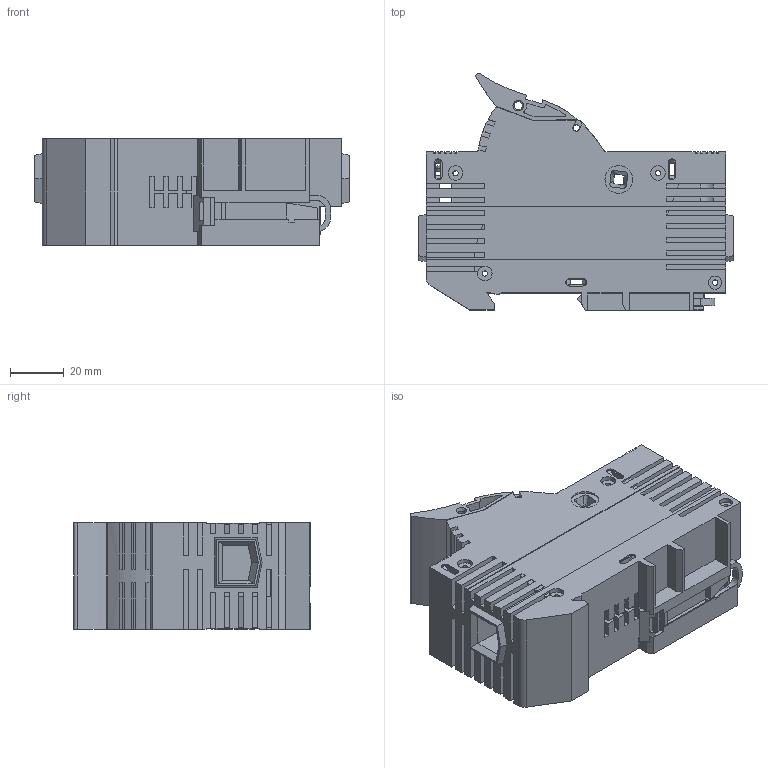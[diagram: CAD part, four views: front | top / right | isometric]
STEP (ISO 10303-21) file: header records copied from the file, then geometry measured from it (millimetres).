
FILE_DESCRIPTION((''),'2;1');
FILE_NAME('1_POLL_FUSE_HOLDER_J60_AB','2007-01-22T',('abschult'),('Rockwell Automation'),'PRO/ENGINEER BY PARAMETRIC TECHNOLOGY CORPORATION, 2004320','PRO/ENGINEER BY PARAMETRIC TECHNOLOGY CORPORATION, 2004320','');
FILE_SCHEMA(('CONFIG_CONTROL_DESIGN'));
Length unit declared in the file: inch
Products named in the file (1): 1_POLL_FUSE_HOLDER_J60_AB
Bounding box: 117.69 x 88.52 x 39.93 mm (x, y, z)
Surface area: 53246.8 mm2 (no closed solid volume)
Topology: 0 solids, 5 shells, 729 faces, 2239 edges, 1486 vertices
Faces by surface type: plane 528, cylinder 139, bspline 44, torus 10, sphere 4, cone 4
Entity records: 26310 total; most frequent: CARTESIAN_POINT 6464, ORIENTED_EDGE 4293, DIRECTION 3800, EDGE_CURVE 2239, VECTOR 1670, LINE 1670, VERTEX_POINT 1486, AXIS2_PLACEMENT_3D 1065
